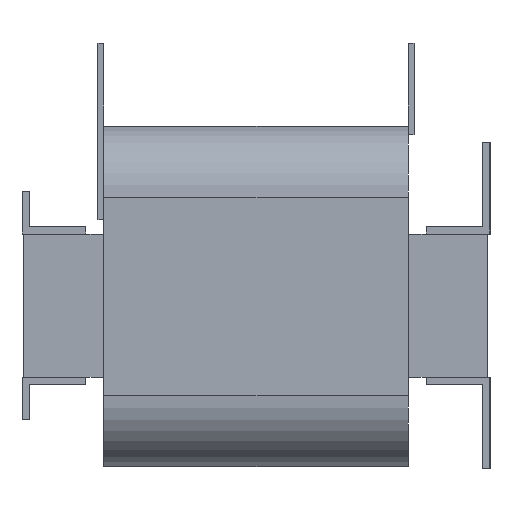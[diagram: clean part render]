
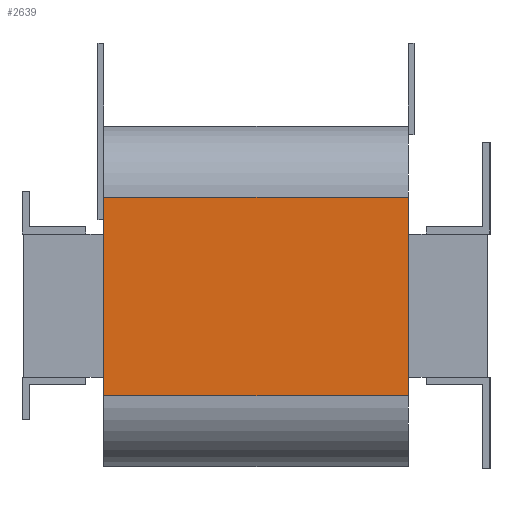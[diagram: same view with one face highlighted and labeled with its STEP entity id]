
A CAD part, left-side view. The second image highlights one B-rep face of the part: STEP entity #2639.
In plain terms, the highlighted planar face has unit normal (-1, 0, 0).
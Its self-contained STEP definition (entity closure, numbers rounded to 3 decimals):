
#114=PLANE('',#2843);
#243=FACE_OUTER_BOUND('',#393,.T.);
#393=EDGE_LOOP('',(#2263,#2264,#2265,#2266));
#670=LINE('',#4142,#996);
#689=LINE('',#4192,#1015);
#690=LINE('',#4195,#1016);
#691=LINE('',#4196,#1017);
#996=VECTOR('',#3383,10.);
#1015=VECTOR('',#3428,10.);
#1016=VECTOR('',#3431,10.);
#1017=VECTOR('',#3432,10.);
#1325=VERTEX_POINT('',#4139);
#1326=VERTEX_POINT('',#4141);
#1344=VERTEX_POINT('',#4190);
#1345=VERTEX_POINT('',#4194);
#1652=EDGE_CURVE('',#1325,#1326,#670,.T.);
#1678=EDGE_CURVE('',#1344,#1325,#689,.T.);
#1679=EDGE_CURVE('',#1344,#1345,#690,.T.);
#1680=EDGE_CURVE('',#1326,#1345,#691,.T.);
#2263=ORIENTED_EDGE('',*,*,#1678,.F.);
#2264=ORIENTED_EDGE('',*,*,#1679,.T.);
#2265=ORIENTED_EDGE('',*,*,#1680,.F.);
#2266=ORIENTED_EDGE('',*,*,#1652,.F.);
#2639=ADVANCED_FACE('',(#243),#114,.T.);
#2843=AXIS2_PLACEMENT_3D('',#4193,#3429,#3430);
#3383=DIRECTION('',(0.,0.,1.));
#3428=DIRECTION('',(0.,1.,0.));
#3429=DIRECTION('center_axis',(-1.,0.,0.));
#3430=DIRECTION('ref_axis',(0.,0.,1.));
#3431=DIRECTION('',(0.,0.,1.));
#3432=DIRECTION('',(0.,-1.,0.));
#4139=CARTESIAN_POINT('',(-288.,272.5,-63.5));
#4141=CARTESIAN_POINT('',(-288.,272.5,76.5));
#4142=CARTESIAN_POINT('',(-288.,272.5,-113.5));
#4190=CARTESIAN_POINT('',(-288.,57.5,-63.5));
#4192=CARTESIAN_POINT('',(-288.,57.5,-63.5));
#4193=CARTESIAN_POINT('Origin',(-288.,57.5,-113.5));
#4194=CARTESIAN_POINT('',(-288.,57.5,76.5));
#4195=CARTESIAN_POINT('',(-288.,57.5,-113.5));
#4196=CARTESIAN_POINT('',(-288.,57.5,76.5));
